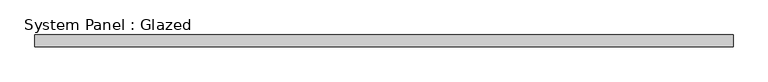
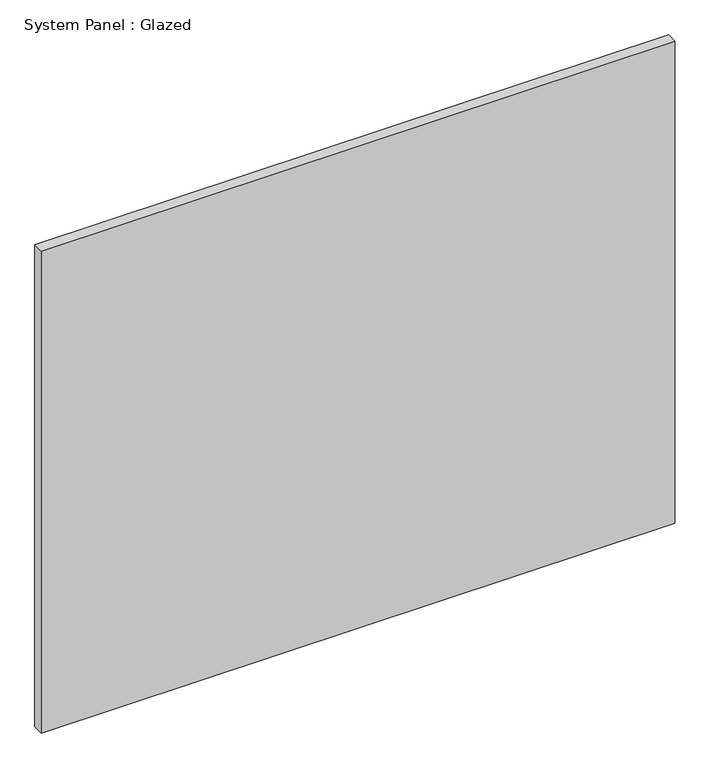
"""IFC4 building model written with IfcOpenShell, lengths in millimetres: plate geometry, System Panel : Glazed."""

from ifc_helpers import new_model, si_unit, origin, origin_with_axes, place, context, project, spatial, polyline, outline, extrude, source, transform, mapped, element, save


def system_panel_glazed_14a235fb(model_context):
    return source(origin(), model_context, "Body", "SweptSolid", [
        extrude(outline(polyline([(745.0, -12.5), (-745.0, -12.5), (-745.0, 12.5), (745.0, 12.5), (745.0, -12.5)])), origin_with_axes(), (0.0, 0.0, 1.0), 1197.5),
    ])


if __name__ == "__main__":
    model = new_model("IFC4")
    model_context = context("Model", 3, world=origin())
    ifc_project = project(units=[si_unit("LENGTHUNIT", "METRE", prefix="MILLI")], contexts=[model_context])
    site = spatial("IfcSite", under=ifc_project)
    building = spatial("IfcBuilding", under=site)
    placement = place(None, origin())
    system_panel_glazed_shape = system_panel_glazed_14a235fb(model_context)
    element("IfcPlate", 1, ObjectType="System Panel : Glazed", at=placement, inside=building, context=model_context, shape_type="MappedRepresentation", body=[
        mapped(system_panel_glazed_shape, transform((0.0, 0.0, 0.0), x_axis=(1.0, 0.0, 0.0), y_axis=(0.0, 1.0, 0.0), z_axis=(0.0, 0.0, 1.0))),
    ])
    save(model, "model.ifc")
